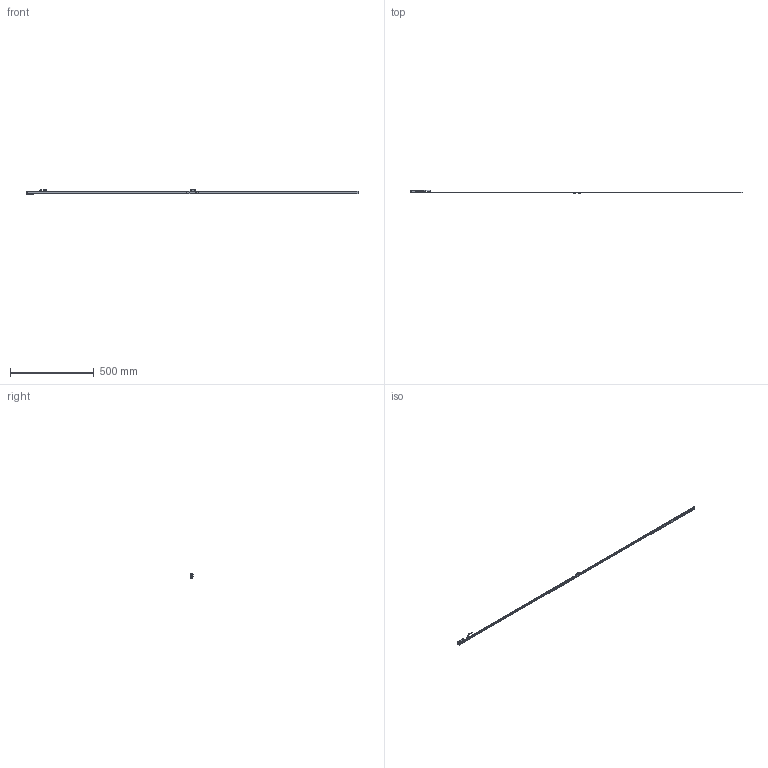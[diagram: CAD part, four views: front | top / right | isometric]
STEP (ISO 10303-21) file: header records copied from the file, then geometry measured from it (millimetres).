
FILE_DESCRIPTION(('Creo Elements/Direct Modeling STEP Export'),'2;1');
FILE_NAME('EXG_EXGA-1940.stp','2017-01-13T14:31:05',(''),(''),'Creo Elements/Direct Modeling STEP processor for AP214 (Solid Model)','Creo Elements/Direct Modeling 18.1H 24-Oct-2015 (C) Parametric Technology GmbH','');
FILE_SCHEMA(('AUTOMOTIVE_DESIGN { 1 0 10303 214 1 1 1 1 }'));
Length unit declared in the file: millimetre
Products named in the file (4): CABEZA_REGLA_EXPOSED; Regla_64
Assembly tree (2 placements, depth 2):
  CABEZA_REGLA_EXPOSED
    CABEZA_REGLA_EXPOSED
  Regla_64
    Regla_64
Bounding box: 1978 x 19.51 x 29.31 mm (x, y, z)
Volume: 78824.8 mm3; surface area: 129140.2 mm2
Topology: 2 solids, 4 shells, 508 faces, 1339 edges, 854 vertices
Faces by surface type: plane 255, cylinder 149, cone 88, torus 16
Entity records: 16964 total; most frequent: CARTESIAN_POINT 2901, ORIENTED_EDGE 2654, DIRECTION 2465, EDGE_CURVE 1327, VERTEX_POINT 854, AXIS2_PLACEMENT_3D 847, VECTOR 771, LINE 771
